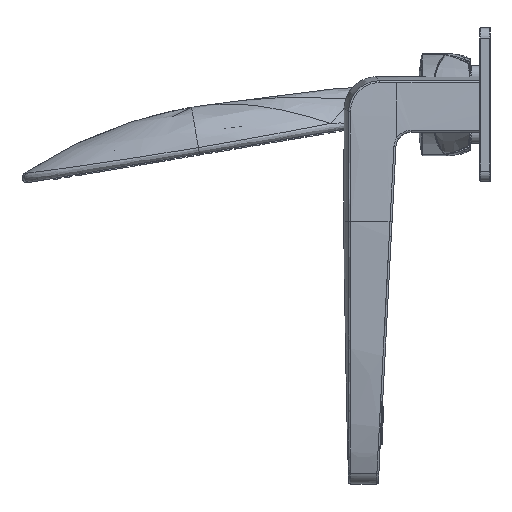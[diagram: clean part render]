
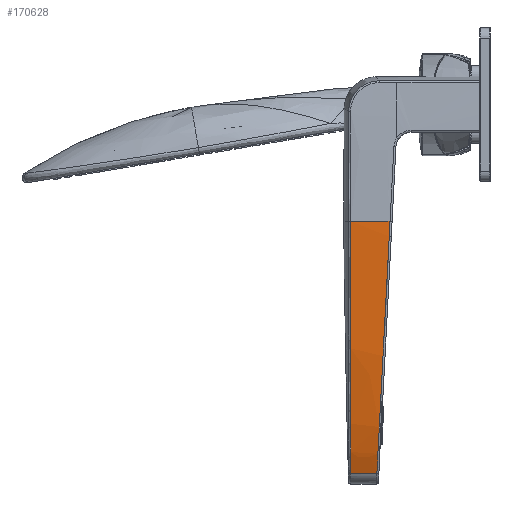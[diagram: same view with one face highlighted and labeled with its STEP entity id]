
A CAD part, left-side view. The second image highlights one B-rep face of the part: STEP entity #170628.
In plain terms, the highlighted face is a extrusion surface.
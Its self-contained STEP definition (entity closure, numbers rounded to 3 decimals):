
#24937=CARTESIAN_POINT('',(-222.947,132.781,
-64.511));
#91077=CARTESIAN_POINT('',(-222.995,132.894,
-57.093));
#91078=CARTESIAN_POINT('',(-222.995,132.883,
-57.091));
#91079=CARTESIAN_POINT('',(-223.001,132.86,
-57.088));
#91080=CARTESIAN_POINT('',(-223.002,132.821,
-57.087));
#91081=CARTESIAN_POINT('',(-222.993,132.795,
-57.09));
#91082=CARTESIAN_POINT('',(-222.993,132.781,
-57.093));
#91130=CARTESIAN_POINT('',(542.043,132.781,
-56.474));
#91131=DIRECTION('',(0.,-1.,0.));
#91132=DIRECTION('',(-1.,0.,-0.001));
#91133=AXIS2_PLACEMENT_3D('',#91130,#91131,#91132);
#91140=CARTESIAN_POINT('',(-208.136,139.25,
-180.434));
#91141=CARTESIAN_POINT('',(-208.136,139.204,
-180.434));
#91142=CARTESIAN_POINT('',(-208.14,139.112,
-180.43));
#91143=CARTESIAN_POINT('',(-208.14,138.973,
-180.43));
#91144=CARTESIAN_POINT('',(-208.137,138.881,
-180.434));
#91145=CARTESIAN_POINT('',(-208.137,138.835,
-180.434));
#91147=CARTESIAN_POINT('',(-208.137,139.324,
-180.433));
#91148=CARTESIAN_POINT('',(-208.137,139.315,
-180.433));
#91149=CARTESIAN_POINT('',(-208.14,139.298,
-180.431));
#91150=CARTESIAN_POINT('',(-208.14,139.273,
-180.43));
#91151=CARTESIAN_POINT('',(-208.136,139.258,
-180.434));
#91152=CARTESIAN_POINT('',(-208.136,139.25,
-180.434));
#91154=DIRECTION('',(0.,-1.,0.));
#91155=VECTOR('',#91154,12.308);
#91156=CARTESIAN_POINT('',(-208.137,151.632,
-180.433));
#91157=LINE('',#91156,#91155);
#91158=CARTESIAN_POINT('',(-222.995,151.701,
-57.094));
#91159=CARTESIAN_POINT('',(-222.991,151.688,
-62.063));
#91160=CARTESIAN_POINT('',(-222.875,151.688,
-72.282));
#91161=CARTESIAN_POINT('',(-222.406,151.697,
-87.741));
#91162=CARTESIAN_POINT('',(-221.583,151.684,
-103.476));
#91163=CARTESIAN_POINT('',(-220.582,151.676,
-116.564));
#91164=CARTESIAN_POINT('',(-219.549,151.668,
-127.018));
#91165=CARTESIAN_POINT('',(-218.336,151.661,
-137.463));
#91166=CARTESIAN_POINT('',(-216.822,151.656,
-147.853));
#91167=CARTESIAN_POINT('',(-214.875,151.648,
-158.174));
#91168=CARTESIAN_POINT('',(-213.419,151.643,
-164.589));
#91169=CARTESIAN_POINT('',(-212.044,151.642,
-169.69));
#91170=CARTESIAN_POINT('',(-210.876,151.636,
-173.506));
#91171=CARTESIAN_POINT('',(-209.624,151.625,
-177.025));
#91172=CARTESIAN_POINT('',(-208.692,151.623,
-179.238));
#91173=CARTESIAN_POINT('',(-208.238,151.623,
-180.213));
#91175=DIRECTION('',(0.,1.,0.));
#91176=VECTOR('',#91175,18.807);
#91177=CARTESIAN_POINT('',(-222.995,132.894,
-57.093));
#91178=LINE('',#91177,#91176);
#91179=CARTESIAN_POINT('',(-208.137,138.835,
-180.434));
#91180=CARTESIAN_POINT('',(-208.574,138.787,
-179.507));
#91181=CARTESIAN_POINT('',(-209.47,138.679,
-177.411));
#91182=CARTESIAN_POINT('',(-211.094,138.449,
-172.946));
#91183=CARTESIAN_POINT('',(-212.836,138.138,
-166.976));
#91184=CARTESIAN_POINT('',(-214.542,137.761,
-159.735));
#91185=CARTESIAN_POINT('',(-216.443,137.257,
-150.07));
#91186=CARTESIAN_POINT('',(-218.308,136.623,
-137.937));
#91187=CARTESIAN_POINT('',(-219.981,135.859,
-123.325));
#91188=CARTESIAN_POINT('',(-221.222,135.092,
-108.669));
#91189=CARTESIAN_POINT('',(-222.115,134.323,
-93.976));
#91190=CARTESIAN_POINT('',(-222.699,133.552,
-79.246));
#91191=CARTESIAN_POINT('',(-222.896,133.038,
-69.424));
#91192=CARTESIAN_POINT('',(-222.947,132.781,
-64.511));
#91220=CARTESIAN_POINT('',(-208.137,138.835,
-180.434));
#91924=CARTESIAN_POINT('',(-208.238,151.623,
-180.213));
#91940=CARTESIAN_POINT('',(-208.137,151.632,
-180.433));
#91941=CARTESIAN_POINT('',(-208.148,151.629,
-180.411));
#91942=CARTESIAN_POINT('',(-208.17,151.625,
-180.366));
#91943=CARTESIAN_POINT('',(-208.204,151.623,
-180.292));
#91944=CARTESIAN_POINT('',(-208.227,151.623,
-180.24));
#91945=CARTESIAN_POINT('',(-208.238,151.623,
-180.213));
#93350=VERTEX_POINT('',#91924);
#93525=VERTEX_POINT('',#91220);
#93526=VERTEX_POINT('',#91140);
#93527=VERTEX_POINT('',#91147);
#93528=CARTESIAN_POINT('',(-208.137,151.632,
-180.433));
#93529=VERTEX_POINT('',#93528);
#93580=VERTEX_POINT('',#24937);
#93589=CARTESIAN_POINT('',(-222.989,132.781,
-57.093));
#93590=VERTEX_POINT('',#93589);
#93591=VERTEX_POINT('',#91077);
#93592=CARTESIAN_POINT('',(-222.995,151.701,
-57.094));
#93593=VERTEX_POINT('',#93592);
#170599=CARTESIAN_POINT('',(-207.609,132.781,
-181.506));
#170600=CARTESIAN_POINT('',(-207.785,132.781,
-181.161));
#170601=CARTESIAN_POINT('',(-209.057,132.781,
-178.569));
#170602=CARTESIAN_POINT('',(-211.333,132.781,
-172.569));
#170603=CARTESIAN_POINT('',(-215.199,132.781,
-157.91));
#170604=CARTESIAN_POINT('',(-220.833,132.781,
-123.761));
#170605=CARTESIAN_POINT('',(-222.99,132.781,
-83.345));
#170606=CARTESIAN_POINT('',(-222.99,132.781,
-56.255));
#170607=CARTESIAN_POINT('',(-222.989,132.781,
-55.839));
#170609=DIRECTION('',(0.,1.,0.));
#170610=VECTOR('',#170609,1.);
#170611=SURFACE_OF_LINEAR_EXTRUSION('',#170608,#170610);
#170613=ORIENTED_EDGE('',*,*,#170612,.F.);
#170615=ORIENTED_EDGE('',*,*,#170614,.F.);
#170617=ORIENTED_EDGE('',*,*,#170616,.F.);
#170619=ORIENTED_EDGE('',*,*,#170618,.T.);
#170621=ORIENTED_EDGE('',*,*,#170620,.F.);
#170622=ORIENTED_EDGE('',*,*,#170572,.F.);
#170623=ORIENTED_EDGE('',*,*,#170570,.T.);
#170624=ORIENTED_EDGE('',*,*,#170591,.T.);
#170625=ORIENTED_EDGE('',*,*,#103318,.F.);
#170626=EDGE_LOOP('',(#170613,#170615,#170617,#170619,#170621,#170622,#170623,
#170624,#170625));
#170627=FACE_OUTER_BOUND('',#170626,.F.);
#170628=ADVANCED_FACE('',(#170627),#170611,.T.);
#91083=B_SPLINE_CURVE_WITH_KNOTS('',3,(#91077,#91078,#91079,#91080,#91081,
#91082),.UNSPECIFIED.,.F.,.F.,(4,1,1,4),(0.,0.333,
0.667,1.),.UNSPECIFIED.);
#91134=CIRCLE('',#91133,765.033);
#91146=B_SPLINE_CURVE_WITH_KNOTS('',3,(#91140,#91141,#91142,#91143,#91144,
#91145),.UNSPECIFIED.,.F.,.F.,(4,1,1,4),(0.,0.333,
0.667,1.),.UNSPECIFIED.);
#91153=B_SPLINE_CURVE_WITH_KNOTS('',3,(#91147,#91148,#91149,#91150,#91151,
#91152),.UNSPECIFIED.,.F.,.F.,(4,1,1,4),(0.,0.333,
0.667,1.),.UNSPECIFIED.);
#91174=B_SPLINE_CURVE_WITH_KNOTS('',3,(#91158,#91159,#91160,#91161,#91162,
#91163,#91164,#91165,#91166,#91167,#91168,#91169,#91170,#91171,#91172,#91173),
.UNSPECIFIED.,.F.,.F.,(4,1,1,1,1,1,1,1,1,1,1,1,1,4),(0.,0.12,
0.246,0.373,0.5,0.563,
0.626,0.753,0.816,0.879,
0.911,0.943,0.974,1.),.UNSPECIFIED.);
#91193=B_SPLINE_CURVE_WITH_KNOTS('',3,(#91179,#91180,#91181,#91182,#91183,
#91184,#91185,#91186,#91187,#91188,#91189,#91190,#91191,#91192),.UNSPECIFIED.,
.F.,.F.,(4,1,1,1,1,1,1,1,1,1,1,4),(0.,0.025,0.057,
0.12,0.183,0.245,0.371,
0.497,0.623,0.748,0.874,1.),
.UNSPECIFIED.);
#91946=B_SPLINE_CURVE_WITH_KNOTS('',3,(#91940,#91941,#91942,#91943,#91944,
#91945),.UNSPECIFIED.,.F.,.F.,(4,1,1,4),(0.,0.333,
0.667,1.),.UNSPECIFIED.);
#103318=EDGE_CURVE('',#93525,#93580,#91193,.T.);
#170570=EDGE_CURVE('',#93591,#93590,#91083,.T.);
#170572=EDGE_CURVE('',#93591,#93593,#91178,.T.);
#170591=EDGE_CURVE('',#93590,#93580,#91134,.T.);
#170608=B_SPLINE_CURVE_WITH_KNOTS('',3,(#170599,#170600,#170601,#170602,#170603,
#170604,#170605,#170606,#170607),.UNSPECIFIED.,.F.,.F.,(4,1,1,1,1,1,4),(0.,
0.019,0.141,0.263,0.506,
0.992,1.),.UNSPECIFIED.);
#170612=EDGE_CURVE('',#93526,#93525,#91146,.T.);
#170614=EDGE_CURVE('',#93527,#93526,#91153,.T.);
#170616=EDGE_CURVE('',#93529,#93527,#91157,.T.);
#170618=EDGE_CURVE('',#93529,#93350,#91946,.T.);
#170620=EDGE_CURVE('',#93593,#93350,#91174,.T.);
